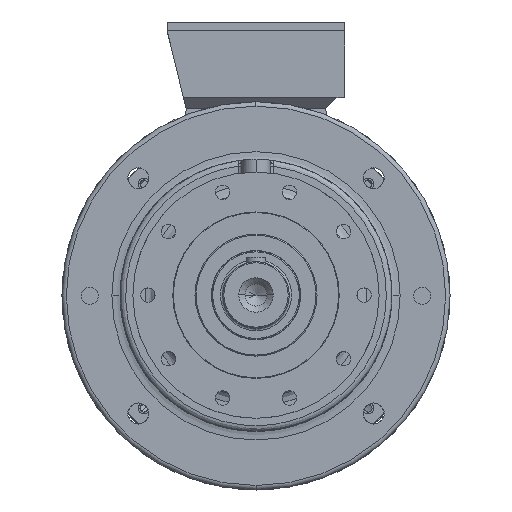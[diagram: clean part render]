
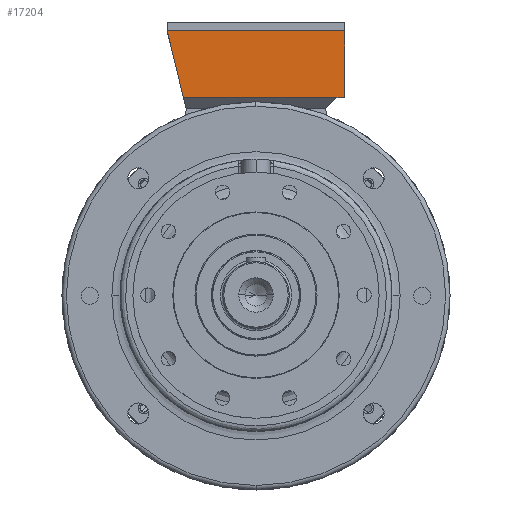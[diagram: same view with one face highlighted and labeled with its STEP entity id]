
A CAD part, top view. The second image highlights one B-rep face of the part: STEP entity #17204.
In plain terms, the highlighted planar face has unit normal (0, 0, 1).
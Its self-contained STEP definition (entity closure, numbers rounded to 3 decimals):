
#17204 = ADVANCED_FACE ( 'NONE', ( #37192 ), #79335, .F. ) ;
#27698 = EDGE_LOOP ( 'NONE', ( #33276, #33378, #33357, #33400, #33340 ) ) ;
#33276 = ORIENTED_EDGE ( 'NONE', *, *, #76634, .F. ) ;
#33340 = ORIENTED_EDGE ( 'NONE', *, *, #76651, .F. ) ;
#33357 = ORIENTED_EDGE ( 'NONE', *, *, #76589, .T. ) ;
#33378 = ORIENTED_EDGE ( 'NONE', *, *, #76674, .T. ) ;
#33400 = ORIENTED_EDGE ( 'NONE', *, *, #76580, .F. ) ;
#37192 = FACE_OUTER_BOUND ( 'NONE', #27698, .T. ) ;
#44801 = VERTEX_POINT ( 'NONE', #64685 ) ;
#45053 = VERTEX_POINT ( 'NONE', #64690 ) ;
#45092 = VERTEX_POINT ( 'NONE', #64835 ) ;
#45095 = VERTEX_POINT ( 'NONE', #64814 ) ;
#45113 = VERTEX_POINT ( 'NONE', #64846 ) ;
#64685 = CARTESIAN_POINT ( 'NONE',  ( 80., 10., 150. ) ) ;
#64690 = CARTESIAN_POINT ( 'NONE',  ( 73., 10., 150. ) ) ;
#64814 = CARTESIAN_POINT ( 'NONE',  ( 80., 70., 150. ) ) ;
#64835 = CARTESIAN_POINT ( 'NONE',  ( -65.429, 10., 150. ) ) ;
#64846 = CARTESIAN_POINT ( 'NONE',  ( -80., 70., 150. ) ) ;
#76580 = EDGE_CURVE ( 'NONE', #45053, #45092, #97133, .T. ) ;
#76589 = EDGE_CURVE ( 'NONE', #45113, #45092, #97381, .T. ) ;
#76634 = EDGE_CURVE ( 'NONE', #45095, #44801, #97210, .T. ) ;
#76651 = EDGE_CURVE ( 'NONE', #44801, #45053, #98017, .T. ) ;
#76674 = EDGE_CURVE ( 'NONE', #45095, #45113, #121591, .T. ) ;
#79335 = PLANE ( 'NONE',  #132620 ) ;
#79390 = DIRECTION ( 'NONE',  ( 0., 0., -1. ) ) ;
#79397 = DIRECTION ( 'NONE',  ( -1., 0., 0. ) ) ;
#79420 = CARTESIAN_POINT ( 'NONE',  ( -80., 70., 150. ) ) ;
#97107 = VECTOR ( 'NONE', #112647, 1000. ) ;
#97133 = LINE ( 'NONE', #112623, #97107 ) ;
#97210 = LINE ( 'NONE', #121226, #97521 ) ;
#97250 = VECTOR ( 'NONE', #120236, 1000. ) ;
#97381 = LINE ( 'NONE', #120223, #97250 ) ;
#97521 = VECTOR ( 'NONE', #121214, 1000. ) ;
#98017 = LINE ( 'NONE', #121266, #98128 ) ;
#98128 = VECTOR ( 'NONE', #121276, 1000. ) ;
#112623 = CARTESIAN_POINT ( 'NONE',  ( -80., 10., 150. ) ) ;
#112647 = DIRECTION ( 'NONE',  ( -1., 0., 0. ) ) ;
#119090 = DIRECTION ( 'NONE',  ( -1., 0., 0. ) ) ;
#119113 = CARTESIAN_POINT ( 'NONE',  ( -80., 70., 150. ) ) ;
#120223 = CARTESIAN_POINT ( 'NONE',  ( -63., 0., 150. ) ) ;
#120236 = DIRECTION ( 'NONE',  ( 0.236, -0.972, 0. ) ) ;
#121214 = DIRECTION ( 'NONE',  ( 0., -1., 0. ) ) ;
#121226 = CARTESIAN_POINT ( 'NONE',  ( 80., 70., 150. ) ) ;
#121266 = CARTESIAN_POINT ( 'NONE',  ( -80., 10., 150. ) ) ;
#121276 = DIRECTION ( 'NONE',  ( -1., 0., 0. ) ) ;
#121569 = VECTOR ( 'NONE', #119090, 1000. ) ;
#121591 = LINE ( 'NONE', #119113, #121569 ) ;
#132620 = AXIS2_PLACEMENT_3D ( 'NONE', #79420, #79390, #79397 ) ;
